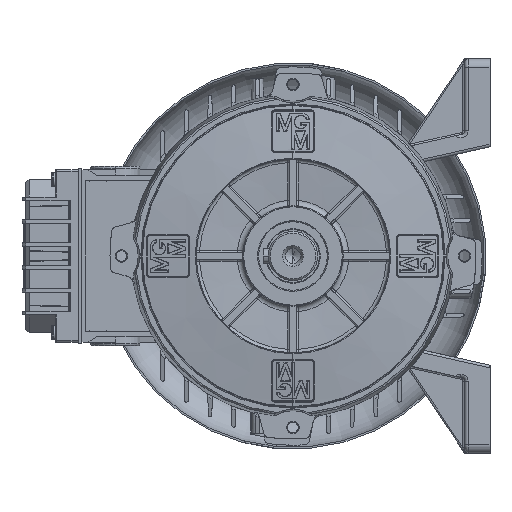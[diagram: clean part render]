
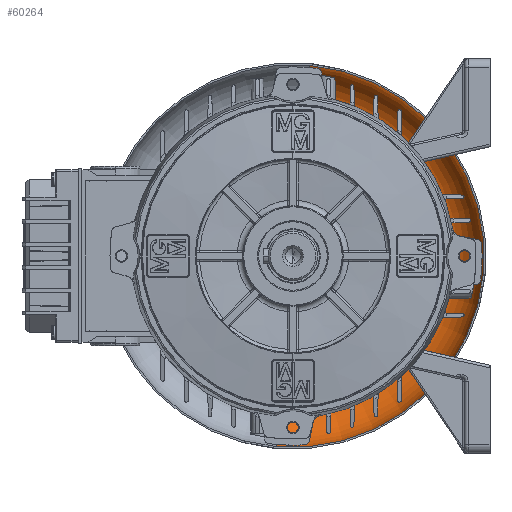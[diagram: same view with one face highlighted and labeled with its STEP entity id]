
A CAD part, left-side view. The second image highlights one B-rep face of the part: STEP entity #60264.
In plain terms, the highlighted toroidal (fillet/blend) face has major radius 84.684 mm and minor radius 24.066 mm.
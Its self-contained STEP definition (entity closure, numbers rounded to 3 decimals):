
#1011 = CARTESIAN_POINT ( 'NONE',  ( 96.046, 0., 0. ) ) ;
#2518 = AXIS2_PLACEMENT_3D ( 'NONE', #53173, #125640, #63571 ) ;
#4171 = CARTESIAN_POINT ( 'NONE',  ( 72., 0., 108.75 ) ) ;
#5158 = CARTESIAN_POINT ( 'NONE',  ( 72., 0., 84.684 ) ) ;
#6161 = FACE_OUTER_BOUND ( 'NONE', #110783, .T. ) ;
#11420 = DIRECTION ( 'NONE',  ( 0., 0., 1. ) ) ;
#14170 = DIRECTION ( 'NONE',  ( -1., 0., 0. ) ) ;
#15552 = DIRECTION ( 'NONE',  ( 0., 0., -1. ) ) ;
#15864 = ORIENTED_EDGE ( 'NONE', *, *, #51956, .F. ) ;
#16456 = CIRCLE ( 'NONE', #63485, 24.066 ) ;
#33961 = CARTESIAN_POINT ( 'NONE',  ( 72., 0., -84.684 ) ) ;
#40564 = EDGE_CURVE ( 'NONE', #126559, #117211, #44688, .T. ) ;
#42222 = AXIS2_PLACEMENT_3D ( 'NONE', #117444, #14170, #86645 ) ;
#42417 = AXIS2_PLACEMENT_3D ( 'NONE', #1011, #73468, #11420 ) ;
#44472 = DIRECTION ( 'NONE',  ( 0., 0., 1. ) ) ;
#44688 = CIRCLE ( 'NONE', #2518, 108.75 ) ;
#47305 = VERTEX_POINT ( 'NONE', #78109 ) ;
#51956 = EDGE_CURVE ( 'NONE', #124167, #117211, #16456, .T. ) ;
#52027 = ORIENTED_EDGE ( 'NONE', *, *, #40564, .T. ) ;
#53173 = CARTESIAN_POINT ( 'NONE',  ( 72., 0., 0. ) ) ;
#53825 = CARTESIAN_POINT ( 'NONE',  ( 96.046, 0., 85.66 ) ) ;
#60264 = ADVANCED_FACE ( 'NONE', ( #6161 ), #88825, .F. ) ;
#62135 = ORIENTED_EDGE ( 'NONE', *, *, #91141, .T. ) ;
#62186 = AXIS2_PLACEMENT_3D ( 'NONE', #33961, #106440, #44472 ) ;
#62432 = EDGE_CURVE ( 'NONE', #47305, #124167, #86774, .T. ) ;
#63485 = AXIS2_PLACEMENT_3D ( 'NONE', #5158, #77591, #15552 ) ;
#63571 = DIRECTION ( 'NONE',  ( 0., 0., 1. ) ) ;
#71487 = CIRCLE ( 'NONE', #62186, 24.066 ) ;
#73468 = DIRECTION ( 'NONE',  ( -1., 0., 0. ) ) ;
#77591 = DIRECTION ( 'NONE',  ( 0., -1., 0. ) ) ;
#78109 = CARTESIAN_POINT ( 'NONE',  ( 96.046, 0., -85.66 ) ) ;
#86645 = DIRECTION ( 'NONE',  ( 0., 0., 1. ) ) ;
#86774 = CIRCLE ( 'NONE', #42417, 85.66 ) ;
#88825 = TOROIDAL_SURFACE ( 'NONE', #42222, 84.684, 24.066 ) ;
#91141 = EDGE_CURVE ( 'NONE', #47305, #126559, #71487, .T. ) ;
#93619 = CARTESIAN_POINT ( 'NONE',  ( 72., 0., -108.75 ) ) ;
#94668 = ORIENTED_EDGE ( 'NONE', *, *, #62432, .F. ) ;
#106440 = DIRECTION ( 'NONE',  ( 0., 1., 0. ) ) ;
#110783 = EDGE_LOOP ( 'NONE', ( #94668, #62135, #52027, #15864 ) ) ;
#117211 = VERTEX_POINT ( 'NONE', #4171 ) ;
#117444 = CARTESIAN_POINT ( 'NONE',  ( 72., 0., 0. ) ) ;
#124167 = VERTEX_POINT ( 'NONE', #53825 ) ;
#125640 = DIRECTION ( 'NONE',  ( -1., 0., 0. ) ) ;
#126559 = VERTEX_POINT ( 'NONE', #93619 ) ;
